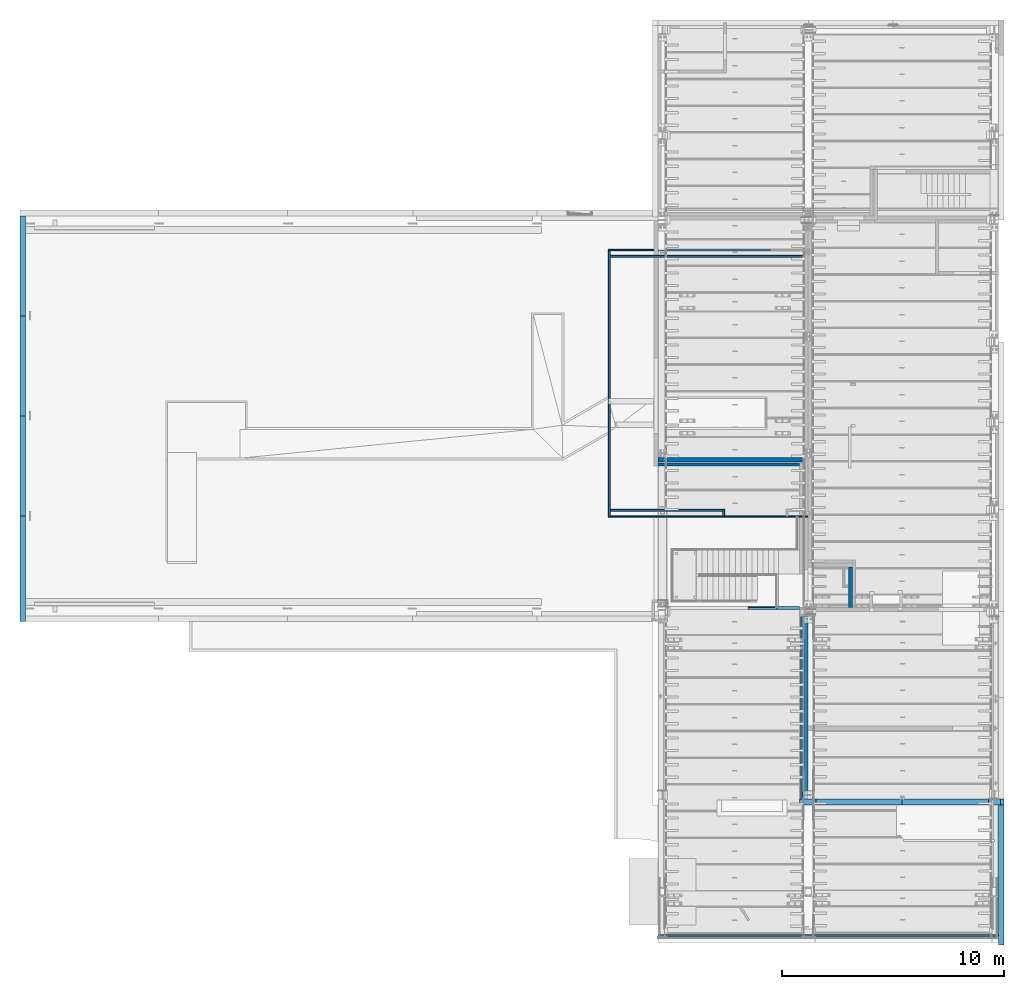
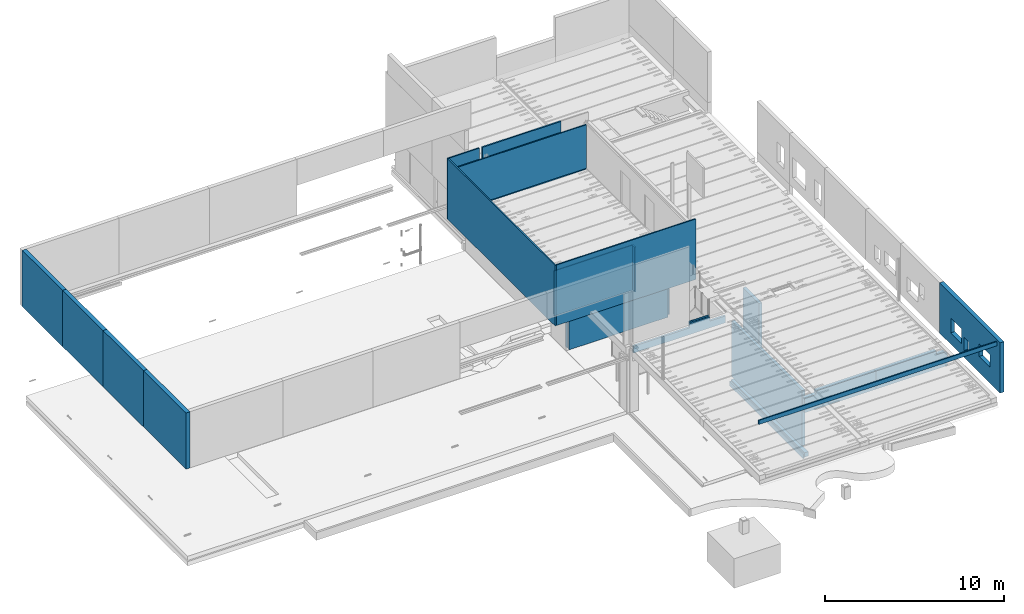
# One storey, part 68 of 230: 22 walls, 3 openings.
"""IFC4X3_ADD2 building model written with IfcOpenShell, lengths in millimetres."""

from ifc_helpers import new_model, si_unit, direction, frame, frame_2d, origin_with_axes, place, context, subcontext, project, spatial, polyline, rectangle, outline, extrude, clip, bounded_halfspace, material, layer, layer_set, type_object, element, save


model = new_model("IFC4X3_ADD2")

# Units and contexts
model_context = context("Model", 3, precision=1e-05, world=origin_with_axes(), true_north=direction((0.0, 1.0)))
body_context = subcontext(model_context, "Body", "Model", "MODEL_VIEW")
ifc_project = project(units=[si_unit("LENGTHUNIT", "METRE", prefix="MILLI"), si_unit("AREAUNIT", "SQUARE_METRE"), si_unit("VOLUMEUNIT", "CUBIC_METRE"), si_unit("PLANEANGLEUNIT", "RADIAN"), si_unit("TIMEUNIT", "SECOND"), si_unit("MASSUNIT", "GRAM")], contexts=[model_context])

# Site, building, storey
site_placement = place(None, origin_with_axes())
site = spatial("IfcSite", under=ifc_project, at=site_placement, Name="Site", CompositionType="ELEMENT")
building_placement = place(site_placement, origin_with_axes())
building = spatial("IfcBuilding", under=site, at=building_placement, Name="IFC Building Story")
storey_placement = place(building_placement, origin_with_axes())
storey = spatial("IfcBuildingStorey", under=building, at=storey_placement, Name="ETAGE 00 (0)", Elevation=0.0)

# Walls
ifc_material_1 = material(Name="BS_28_Ossature en béton armé - Eléments préfabriqués(panneau façade)")
ifc_layer_1 = layer(ifc_material_1, 90.0)
ifc_material_2 = material(Name="BS_21_Isolation des murs extérieurs")
ifc_layer_2 = layer(ifc_material_2, 100.0)
ifc_layer_3 = layer(ifc_material_1, 60.0)
ifc_layer_set_1 = layer_set([ifc_layer_1, ifc_layer_2, ifc_layer_3], Name="Mur de base:BS_21_WA_BTpréfab90-ISO100-BTlissépréfab60")
wall_type_1 = type_object("IfcWallType", Name="Mur de base:BS_21_WA_BTpréfab90-ISO100-BTlissépréfab60 250", PredefinedType="NOTDEFINED", material=ifc_layer_set_1)
wall_1_placement = place(storey_placement, origin_with_axes())
element("IfcWall", 1, at=wall_1_placement, inside=storey, type_object=wall_type_1, Name="Mur de base:BS_21_WA_BTpréfab90-ISO100-BTlissépréfab60", ObjectType="Mur de base:BS_21_WA_BTpréfab90-ISO100-BTlissépréfab60", context=body_context, shape_type="SweptSolid", body=[
    extrude(rectangle(XDim=4750.000000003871, YDim=250.0000000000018, at=frame_2d((0.0, 5.95523630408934e-12), x_axis=(0.0, 1.0))), frame((4641.18947818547, 2125.00000000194, 6166.0), z_axis=(0.0, 0.0, 1.0), x_axis=(1.0, 0.0, 0.0)), (0.0, 0.0, 1.0), 3824.0),
])
wall_2_placement = place(storey_placement, origin_with_axes())
element("IfcWall", 2, at=wall_2_placement, inside=storey, type_object=wall_type_1, Name="Mur de base:BS_21_WA_BTpréfab90-ISO100-BTlissépréfab60", ObjectType="Mur de base:BS_21_WA_BTpréfab90-ISO100-BTlissépréfab60", context=body_context, shape_type="SweptSolid", body=[
    extrude(rectangle(XDim=4500.000000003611, YDim=250.0000000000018, at=frame_2d((0.0, 5.95523630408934e-12), x_axis=(0.0, 1.0))), frame((4641.18947818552, 15750.0000000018, 6166.0), z_axis=(0.0, 0.0, 1.0), x_axis=(1.0, 0.0, 0.0)), (0.0, 0.0, 1.0), 3824.0),
])
wall_3_placement = place(storey_placement, origin_with_axes())
element("IfcWall", 3, at=wall_3_placement, inside=storey, type_object=wall_type_1, Name="Mur de base:BS_21_WA_BTpréfab90-ISO100-BTlissépréfab60", ObjectType="Mur de base:BS_21_WA_BTpréfab90-ISO100-BTlissépréfab60", context=body_context, shape_type="SweptSolid", body=[
    extrude(rectangle(XDim=4500.000000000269, YDim=250.0000000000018, at=frame_2d((0.0, 5.95523630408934e-12), x_axis=(0.0, 1.0))), frame((4641.1894781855, 11250.00000000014, 6166.0), z_axis=(0.0, 0.0, 1.0), x_axis=(1.0, 0.0, 0.0)), (0.0, 0.0, 1.0), 3824.0),
])
wall_4_placement = place(storey_placement, origin_with_axes())
element("IfcWall", 4, at=wall_4_placement, inside=storey, type_object=wall_type_1, Name="Mur de base:BS_21_WA_BTpréfab90-ISO100-BTlissépréfab60", ObjectType="Mur de base:BS_21_WA_BTpréfab90-ISO100-BTlissépréfab60", context=body_context, shape_type="SweptSolid", body=[
    extrude(rectangle(XDim=4499.999999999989, YDim=250.0, at=frame_2d((0.0, 5.95523630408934e-12), x_axis=(0.0, 1.0))), frame((4641.18947818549, 6750.0, 6166.0), z_axis=(0.0, 0.0, 1.0), x_axis=(1.0, 0.0, 0.0)), (0.0, 0.0, 1.0), 3824.0),
])
ifc_material_3 = material(Name="BS_28_Ossature en béton armé - Eléments coulé sur place")
wall_type_2 = type_object("IfcWallType", Name="Mur de base:BS_28_WA_BTcoulé250", PredefinedType="NOTDEFINED", material=ifc_material_3)
wall_5_placement = place(storey_placement, origin_with_axes())
element("IfcWall", 5, at=wall_5_placement, inside=storey, type_object=wall_type_2, Name="Mur de base:BS_28_WA_BTcoulé250", ObjectType="Mur de base:BS_28_WA_BTcoulé250", context=body_context, shape_type="SweptSolid", body=[
    extrude(rectangle(XDim=8209.70991333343, YDim=249.9999999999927, at=frame_2d((0.0, 5.95523630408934e-12), x_axis=(0.0, 1.0))), frame((39826.6894781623, -4124.854956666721, -500.0), z_axis=(0.0, 0.0, 1.0), x_axis=(1.0, 0.0, 0.0)), (0.0, 0.0, 1.0), 300.0),
])
ifc_material_4 = material(Name="BS_13_Isolation sur sols XPS")
wall_type_3 = type_object("IfcWallType", Name="Mur de base:BS_13_WA_XPS80", PredefinedType="NOTDEFINED", material=ifc_material_4)
wall_6_placement = place(storey_placement, origin_with_axes())
element("IfcWall", 6, at=wall_6_placement, inside=storey, type_object=wall_type_3, Name="Mur de base:BS_13_WA_XPS80", ObjectType="Mur de base:BS_13_WA_XPS80", context=body_context, shape_type="SweptSolid", body=[
    extrude(rectangle(XDim=8209.70991333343, YDim=80.0, at=frame_2d((0.0, 5.95523630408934e-12), x_axis=(0.0, 1.0))), frame((39661.6894781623, -4124.854956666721, -580.0), z_axis=(0.0, 0.0, 1.0), x_axis=(1.0, 0.0, 0.0)), (0.0, 0.0, 1.0), 300.0),
])
ifc_material_5 = material(Name="BS_22_Maçonnerie intérieure - Type4 -  en béton")
wall_type_4 = type_object("IfcWallType", Name="Mur de base:BS_22_WA_BBTlourd190", PredefinedType="NOTDEFINED", material=ifc_material_5)
wall_7_placement = place(storey_placement, origin_with_axes())
element("IfcWall", 7, at=wall_7_placement, inside=storey, type_object=wall_type_4, Name="Mur de base:BS_22_WA_BBTlourd190", ObjectType="Mur de base:BS_22_WA_BBTlourd190", context=body_context, shape_type="SweptSolid", body=[
    extrude(rectangle(XDim=6559.999999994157, YDim=190.0, at=frame_2d((0.0, 5.95523630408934e-12), x_axis=(1.0, 0.0))), frame((36481.68947816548, 7033.83965321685, 0.0), z_axis=(0.0, 0.0, 1.0), x_axis=(1.0, 0.0, 0.0)), (0.0, 0.0, 1.0), 4000.0),
])
wall_8_placement = place(storey_placement, origin_with_axes())
element("IfcWall", 8, at=wall_8_placement, inside=storey, type_object=wall_type_4, Name="Mur de base:BS_22_WA_BBTlourd190", ObjectType="Mur de base:BS_22_WA_BBTlourd190", context=body_context, shape_type="SweptSolid", body=[
    extrude(rectangle(XDim=1799.99999997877, YDim=189.9999999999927, at=frame_2d((0.0, 5.95523630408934e-12), x_axis=(0.0, 1.0))), frame((41846.6894781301, 1300.000000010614, 0.0), z_axis=(0.0, 0.0, 1.0), x_axis=(1.0, 0.0, 0.0)), (0.0, 0.0, 1.0), 4000.0),
])
wall_9_placement = place(storey_placement, origin_with_axes())
element("IfcWall", 9, at=wall_9_placement, inside=storey, type_object=wall_type_4, Name="Mur de base:BS_22_WA_BBTlourd190", ObjectType="Mur de base:BS_22_WA_BBTlourd190", context=body_context, shape_type="SweptSolid", body=[
    extrude(rectangle(XDim=7830.0000867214, YDim=189.9999999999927, at=frame_2d((0.0, 5.95523630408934e-12), x_axis=(0.0, 1.0))), frame((39856.6894781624, -3915.0000433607, 0.0), z_axis=(0.0, 0.0, 1.0), x_axis=(1.0, 0.0, 0.0)), (0.0, 0.0, 1.0), 3770.0),
])
ifc_material_6 = material(Name="BS_42_Revêtement mural en plaques - type A (gyproc)")
ifc_layer_4 = layer(ifc_material_6, 12.5)
ifc_material_7 = material(Name="BS_42_Panneau OSB")
ifc_layer_5 = layer(ifc_material_7, 18.0)
ifc_material_8 = material(Name="BS_42_ContreCloison-Laine minérale")
ifc_layer_6 = layer(ifc_material_8, 75.0)
ifc_layer_7 = layer(ifc_material_7, 18.0)
ifc_layer_8 = layer(ifc_material_6, 12.5)
ifc_layer_set_2 = layer_set([ifc_layer_4, ifc_layer_5, ifc_layer_6, ifc_layer_7, ifc_layer_8], Name="Mur de base:BS_22_WA_C1")
wall_type_5 = type_object("IfcWallType", Name="Mur de base:BS_22_WA_C1 136", PredefinedType="NOTDEFINED", material=ifc_layer_set_2)
wall_10_placement = place(storey_placement, origin_with_axes())
element("IfcWall", 10, at=wall_10_placement, inside=storey, type_object=wall_type_5, Name="Mur de base:BS_22_WA_C1", ObjectType="Mur de base:BS_22_WA_C1", context=body_context, shape_type="Clipping", body=[
    clip(clip(clip(extrude(outline(polyline([(2962.000611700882, -68.0), (-2962.000611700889, -68.0), (-2962.000611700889, 68.0), (2962.000611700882, 68.0), (2962.000611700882, -68.0)])), frame((36587.18886646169, 362.500000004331, 3535.0), z_axis=(0.0, 0.0, 1.0), x_axis=(1.0, 0.0, 0.0)), (0.0, 0.0, 1.0), 835.0), bounded_halfspace(frame((0.0, 0.0, 4000.0), z_axis=(0.0, 0.0, 1.0), x_axis=(1.0, 0.0, 0.0)), False, frame((36587.18886646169, 362.500000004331, 3535.0), z_axis=(0.0, 0.0, 1.0), x_axis=(1.0, 0.0, 0.0)), polyline([(-2962.000611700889, 68.0), (-2962.000611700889, -68.0), (647.6899899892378, -67.99999999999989), (647.6899899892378, 68.0), (-2962.000611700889, 68.0)]))), bounded_halfspace(frame((0.0, 0.0, 4000.0), z_axis=(0.0, 0.0, 1.0), x_axis=(1.0, 0.0, 0.0)), False, frame((36587.18886646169, 362.500000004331, 3535.0), z_axis=(0.0, 0.0, 1.0), x_axis=(1.0, 0.0, 0.0)), polyline([(2962.000611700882, -68.0), (2962.000611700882, 68.0), (1954.929543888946, 68.0), (1954.929543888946, -68.0), (2962.000611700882, -68.0)]))), bounded_halfspace(frame((0.0, 0.0, 4269.999999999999), z_axis=(0.0, 0.0, 1.0), x_axis=(1.0, 0.0, 0.0)), False, frame((36587.18886646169, 362.500000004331, 3535.0), z_axis=(0.0, 0.0, 1.0), x_axis=(1.0, 0.0, 0.0)), polyline([(647.6899899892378, -67.99999999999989), (1954.929543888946, -68.0), (1954.929543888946, 37.49999999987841), (647.6899899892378, 37.49999999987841), (647.6899899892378, -67.99999999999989)]))),
])
ifc_layer_9 = layer(ifc_material_8, 62.5)
ifc_layer_10 = layer(ifc_material_8, 62.5)
ifc_layer_11 = layer(ifc_material_7, 18.0)
ifc_layer_12 = layer(ifc_material_6, 12.5)
ifc_layer_set_3 = layer_set([ifc_layer_9, ifc_layer_10, ifc_layer_11, ifc_layer_12], Name="Mur de base:BS_22_WA_CC4")
wall_type_6 = type_object("IfcWallType", Name="Mur de base:BS_22_WA_CC4 155.5", PredefinedType="NOTDEFINED", material=ifc_layer_set_3)
wall_11_placement = place(storey_placement, origin_with_axes())
element("IfcWall", 11, at=wall_11_placement, inside=storey, type_object=wall_type_6, Name="Mur de base:BS_22_WA_CC4", ObjectType="Mur de base:BS_22_WA_CC4", context=body_context, shape_type="SweptSolid", body=[
    extrude(rectangle(XDim=6347.499999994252, YDim=155.4999999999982, at=frame_2d((0.0, 5.95523630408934e-12), x_axis=(1.0, 0.0))), frame((36375.43947816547, 6817.7485510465, 0.0), z_axis=(0.0, 0.0, 1.0), x_axis=(1.0, 0.0, 0.0)), (0.0, 0.0, 1.0), 4000.0),
])
ifc_layer_13 = layer(ifc_material_8, 25.0)
ifc_layer_14 = layer(ifc_material_8, 25.0)
ifc_layer_15 = layer(ifc_material_7, 18.0)
ifc_material_9 = material(Name="BS_42_Revêtement mural en plaques - type Rf (gyproc)")
ifc_layer_16 = layer(ifc_material_9, 12.5)
ifc_layer_17 = layer(ifc_material_9, 12.5)
ifc_layer_set_4 = layer_set([ifc_layer_13, ifc_layer_14, ifc_layer_15, ifc_layer_16, ifc_layer_17], Name="Mur de base:BS_22_WA_CC5")
wall_type_7 = type_object("IfcWallType", Name="Mur de base:BS_22_WA_CC5 93", PredefinedType="NOTDEFINED", material=ifc_layer_set_4)
wall_12_placement = place(storey_placement, origin_with_axes())
element("IfcWall", 12, at=wall_12_placement, inside=storey, type_object=wall_type_7, Name="Mur de base:BS_22_WA_CC5", ObjectType="Mur de base:BS_22_WA_CC5", context=body_context, shape_type="SweptSolid", body=[
    extrude(rectangle(XDim=5059.999999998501, YDim=93.0, at=frame_2d((0.0, 5.95523630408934e-12), x_axis=(1.0, 0.0))), frame((35731.68947816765, 16455.0000000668, 4270.0), z_axis=(0.0, 0.0, 1.0), x_axis=(1.0, 0.0, 0.0)), (0.0, 0.0, 1.0), 3640.0),
])
ifc_material_10 = material(Name="BS_22_Cloison légère fixe (bois)")
wall_type_8 = type_object("IfcWallType", Name="Mur de base:BS_42_WA_Cloison bois_80", PredefinedType="NOTDEFINED", material=ifc_material_10)
wall_13_placement = place(storey_placement, origin_with_axes())
element("IfcWall", 13, at=wall_13_placement, inside=storey, type_object=wall_type_8, Name="Mur de base:BS_42_WA_Cloison bois_80", ObjectType="Mur de base:BS_42_WA_Cloison bois_80", context=body_context, shape_type="SweptSolid", body=[
    extrude(rectangle(XDim=15299.99999998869, YDim=79.99999999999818, at=frame_2d((0.0, 5.95523630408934e-12), x_axis=(1.0, 0.0))), frame((40851.68947816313, -14366.8898346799, 7742.20609623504), z_axis=(0.0, 0.0, 1.0), x_axis=(1.0, 0.0, 0.0)), (0.0, 0.0, 1.0), 282.033867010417),
])
ifc_layer_18 = layer(ifc_material_8, 25.0)
ifc_layer_19 = layer(ifc_material_8, 25.0)
ifc_layer_20 = layer(ifc_material_7, 18.0)
ifc_layer_21 = layer(ifc_material_6, 12.5)
ifc_layer_set_5 = layer_set([ifc_layer_18, ifc_layer_19, ifc_layer_20, ifc_layer_21], Name="Mur de base:BS_22_WA_CC2")
wall_type_9 = type_object("IfcWallType", Name="Mur de base:BS_22_WA_CC2 80.5", PredefinedType="NOTDEFINED", material=ifc_layer_set_5)
wall_14_placement = place(storey_placement, origin_with_axes())
element("IfcWall", 14, at=wall_14_placement, inside=storey, type_object=wall_type_9, Name="Mur de base:BS_22_WA_CC2", ObjectType="Mur de base:BS_22_WA_CC2", context=body_context, shape_type="SweptSolid", body=[
    extrude(rectangle(XDim=11987.4999999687, YDim=80.49999999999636, at=frame_2d((0.0, 5.95523630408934e-12), x_axis=(0.0, 1.0))), frame((31006.93947812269, 10428.74999997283, 3800.0), z_axis=(0.0, 0.0, 1.0), x_axis=(1.0, 0.0, 0.0)), (0.0, 0.0, 1.0), 4120.0),
])
wall_15_placement = place(storey_placement, origin_with_axes())
element("IfcWall", 15, at=wall_15_placement, inside=storey, type_object=wall_type_9, Name="Mur de base:BS_22_WA_CC2", ObjectType="Mur de base:BS_22_WA_CC2", context=body_context, shape_type="Clipping", body=[
    clip(extrude(outline(polyline([(4347.25, 40.24999999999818), (4347.25, -40.25), (-4347.25, -40.25), (-4347.25, 40.24999999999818), (4347.25, 40.24999999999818)])), frame((35394.4394781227, 16179.0000000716, 4270.0), z_axis=(0.0, 0.0, 1.0), x_axis=(1.0, 0.0, 0.0)), (0.0, 0.0, 1.0), 3060.0), bounded_halfspace(frame((0.0, 0.0, 4370.0), z_axis=(0.0, 0.0, -1.0), x_axis=(-1.0, 0.0, 0.0)), False, frame((35394.4394781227, 16179.0000000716, 4270.0), z_axis=(0.0, 0.0, 1.0), x_axis=(1.0, 0.0, 0.0)), polyline([(4347.25, -8.500000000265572), (4347.25, -40.25), (-4347.25, -40.25), (-4347.25, -8.500000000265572), (4347.25, -8.500000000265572)]))),
])
wall_16_placement = place(storey_placement, origin_with_axes())
element("IfcWall", 16, at=wall_16_placement, inside=storey, type_object=wall_type_9, Name="Mur de base:BS_22_WA_CC2", ObjectType="Mur de base:BS_22_WA_CC2", context=body_context, shape_type="SweptSolid", body=[
    extrude(rectangle(XDim=2045.00000004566, YDim=80.5, at=frame_2d((0.0, 5.95523630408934e-12), x_axis=(1.0, 0.0))), frame((31989.18947814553, 16462.7499999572, 3800.0), z_axis=(0.0, 0.0, 1.0), x_axis=(1.0, 0.0, 0.0)), (0.0, 0.0, 1.0), 4120.0),
])
wall_17_placement = place(storey_placement, origin_with_axes())
element("IfcWall", 17, at=wall_17_placement, inside=storey, type_object=wall_type_9, Name="Mur de base:BS_22_WA_CC2", ObjectType="Mur de base:BS_22_WA_CC2", context=body_context, shape_type="SweptSolid", body=[
    extrude(rectangle(XDim=8971.999999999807, YDim=80.5, at=frame_2d((0.0, 5.95523630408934e-12), x_axis=(1.0, 0.0))), frame((35533.18947812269, 4475.249999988, 3800.0), z_axis=(0.0, 0.0, 1.0), x_axis=(1.0, 0.0, 0.0)), (0.0, 0.0, 1.0), 4120.0),
])
wall_18_placement = place(storey_placement, origin_with_axes())
element("IfcWall", 18, at=wall_18_placement, inside=storey, type_object=wall_type_9, Name="Mur de base:BS_22_WA_CC2", ObjectType="Mur de base:BS_22_WA_CC2", context=body_context, shape_type="SweptSolid", body=[
    extrude(rectangle(XDim=309.2500000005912, YDim=80.5, at=frame_2d((0.0, 5.95523630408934e-12), x_axis=(0.0, 1.0))), frame((36154.439478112, 4649.624999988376, 4270.0), z_axis=(0.0, 0.0, 1.0), x_axis=(1.0, 0.0, 0.0)), (0.0, 0.0, 1.0), 3060.0),
])
wall_19_placement = place(storey_placement, origin_with_axes())
element("IfcWall", 19, at=wall_19_placement, inside=storey, type_object=wall_type_9, Name="Mur de base:BS_22_WA_CC2", ObjectType="Mur de base:BS_22_WA_CC2", context=body_context, shape_type="Clipping", body=[
    clip(extrude(outline(polyline([(-2533.499999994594, -40.25), (-2533.499999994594, 40.25), (2533.499999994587, 40.25), (2533.499999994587, -40.25), (-2533.499999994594, -40.25)])), frame((33580.68947811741, 4763.99999998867, 4270.0), z_axis=(0.0, 0.0, 1.0), x_axis=(1.0, 0.0, 0.0)), (0.0, 0.0, 1.0), 3060.0), bounded_halfspace(frame((0.0, 0.0, 4370.0), z_axis=(0.0, 0.0, -1.0), x_axis=(-1.0, 0.0, 0.0)), False, frame((33580.68947811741, 4763.99999998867, 4270.0), z_axis=(0.0, 0.0, 1.0), x_axis=(1.0, 0.0, 0.0)), polyline([(-2533.499999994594, 6.000000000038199), (-2533.499999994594, 40.25), (2533.499999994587, 40.25), (2533.499999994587, 6.000000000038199), (-2533.499999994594, 6.000000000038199)]))),
])
ifc_layer_22 = layer(ifc_material_1, 90.0)
ifc_layer_23 = layer(ifc_material_2, 100.0)
ifc_layer_24 = layer(ifc_material_1, 60.0)
ifc_layer_set_6 = layer_set([ifc_layer_22, ifc_layer_23, ifc_layer_24], Name="Mur de base:BS_21_WA_BTpréfab90-ISO100-BTlissépréfab60 (sous porte-à-faux)")
wall_type_10 = type_object("IfcWallType", Name="Mur de base:BS_21_WA_BTpréfab90-ISO100-BTlissépréfab60 (sous porte-à-faux) 250", PredefinedType="NOTDEFINED", material=ifc_layer_set_6)
wall_20_placement = place(storey_placement, origin_with_axes())
element("IfcWall", 20, at=wall_20_placement, inside=storey, type_object=wall_type_10, Name="Mur de base:BS_21_WA_BTpréfab90-ISO100-BTlissépréfab60 (sous porte-à-faux)", ObjectType="Mur de base:BS_21_WA_BTpréfab90-ISO100-BTlissépréfab60 (sous porte-à-faux)", context=body_context, shape_type="Clipping", body=[
    clip(extrude(outline(polyline([(-2299.999999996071, 125.0), (2299.999999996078, 125.0), (2299.999999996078, -125.0), (-2299.999999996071, -125.0), (-2299.999999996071, 125.0)])), frame((41861.68947816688, -8355.00008672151, 2720.0), z_axis=(0.0, 0.0, 1.0), x_axis=(1.0, 0.0, 0.0)), (0.0, 0.0, 1.0), 1230.0), bounded_halfspace(frame((0.0, 0.0, 3710.0), z_axis=(0.0, 0.0, 1.0), x_axis=(1.0, 0.0, 0.0)), False, frame((41861.68947816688, -8355.00008672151, 2720.0), z_axis=(0.0, 0.0, 1.0), x_axis=(1.0, 0.0, 0.0)), polyline([(-1559.999999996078, 125.0), (-2299.999999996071, 125.0), (-2299.999999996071, -125.0), (-1559.999999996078, -125.0), (-1559.999999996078, 125.0)]))),
])
wall_21_placement = place(storey_placement, origin_with_axes())
element("IfcWall", 21, at=wall_21_placement, inside=storey, type_object=wall_type_10, Name="Mur de base:BS_21_WA_BTpréfab90-ISO100-BTlissépréfab60 (sous porte-à-faux)", ObjectType="Mur de base:BS_21_WA_BTpréfab90-ISO100-BTlissépréfab60 (sous porte-à-faux)", context=body_context, shape_type="Clipping", body=[
    clip(clip(extrude(outline(polyline([(-2294.99999999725, 125.0), (2294.99999999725, 125.0), (2294.99999999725, -125.0), (-2294.99999999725, -125.0), (-2294.99999999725, 125.0)])), frame((46456.68947816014, -8355.00008672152, 2720.0), z_axis=(0.0, 0.0, 1.0), x_axis=(1.0, 0.0, 0.0)), (0.0, 0.0, 1.0), 1230.0), bounded_halfspace(frame((0.0, 0.0, 3710.0), z_axis=(0.0, 0.0, 1.0), x_axis=(1.0, 0.0, 0.0)), False, frame((46456.68947816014, -8355.00008672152, 2720.0), z_axis=(0.0, 0.0, 1.0), x_axis=(1.0, 0.0, 0.0)), polyline([(2135.00000000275, 125.0), (1595.00000000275, 125.0), (1595.00000000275, -125.0), (2135.00000000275, -125.0), (2135.00000000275, 125.0)]))), bounded_halfspace(frame((0.0, 0.0, 3544.999999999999), z_axis=(0.0, 0.0, 1.0), x_axis=(1.0, 0.0, 0.0)), False, frame((46456.68947816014, -8355.00008672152, 2720.0), z_axis=(0.0, 0.0, 1.0), x_axis=(1.0, 0.0, 0.0)), polyline([(2294.99999999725, 125.0), (2135.00000000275, 125.0), (2135.00000000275, -125.0), (2294.99999999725, -125.0), (2294.99999999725, 125.0)]))),
])

# Wall, openings
ifc_layer_25 = layer(ifc_material_1, 90.0)
ifc_layer_26 = layer(ifc_material_2, 100.0)
ifc_layer_27 = layer(ifc_material_1, 60.0)
ifc_layer_set_7 = layer_set([ifc_layer_25, ifc_layer_26, ifc_layer_27], Name="Mur de base:BS_21_WA_BTpréfab90-ISO100-BTlissépréfab60 (porte-à-faux)")
wall_type_11 = type_object("IfcWallType", Name="Mur de base:BS_21_WA_BTpréfab90-ISO100-BTlissépréfab60 (porte-à-faux) 250", PredefinedType="NOTDEFINED", material=ifc_layer_set_7)
wall_22_placement = place(storey_placement, origin_with_axes())
wall_22 = element("IfcWall", 22, at=wall_22_placement, inside=storey, type_object=wall_type_11, Name="Mur de base:BS_21_WA_BTpréfab90-ISO100-BTlissépréfab60 (porte-à-faux)", ObjectType="Mur de base:BS_21_WA_BTpréfab90-ISO100-BTlissépréfab60 (porte-à-faux)", context=body_context, shape_type="SweptSolid", body=[
    extrude(rectangle(XDim=6749.999913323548, YDim=250.0000000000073, at=frame_2d((0.0, 5.95523630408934e-12), x_axis=(0.0, 1.0))), frame((48626.68947815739, -11405.00004338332, 4745.0), z_axis=(0.0, 0.0, 1.0), x_axis=(1.0, 0.0, 0.0)), (0.0, 0.0, 1.0), 3430.0),
])
opening_1_placement = place(wall_22_placement, frame((48501.68947815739, -9885.000000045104, 6020.0), z_axis=(1.0, 0.0, 0.0), x_axis=(0.0, -1.0, 0.0)))
element("IfcOpeningElement", 23, at=opening_1_placement, cuts=wall_22, ObjectType="Opening", context=body_context, shape_type="SweptSolid", body=[
    extrude(outline(polyline([(600.0, -225.0), (-599.9999999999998, -225.0), (-599.9999999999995, 224.9999999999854), (600.0, 224.9999999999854), (600.0, -225.0)])), frame((0.0, -500.0, 24.99999999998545), z_axis=(0.0, 1.0, 0.0), x_axis=(1.0, 0.0, 0.0)), (0.0, 0.0, 1.0), 1000.0),
])
opening_2_placement = place(wall_22_placement, frame((48501.68947815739, -11020.0, 5669.999999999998), z_axis=(1.0, 0.0, 0.0), x_axis=(0.0, -1.0, 0.0)))
element("IfcOpeningElement", 24, at=opening_2_placement, cuts=wall_22, ObjectType="Opening", context=body_context, shape_type="SweptSolid", body=[
    extrude(outline(polyline([(250.0000000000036, -225.0), (-250.0, -225.0), (-250.0, 224.9999999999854), (250.0000000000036, 224.9999999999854), (250.0000000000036, -225.0)])), frame((-1.818989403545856e-12, -450.0000000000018, 24.99999999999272), z_axis=(0.0, 1.0, 0.0), x_axis=(1.0, 0.0, 0.0)), (0.0, 0.0, 1.0), 900.0000000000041),
])
opening_3_placement = place(wall_22_placement, frame((48501.68947815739, -13030.0, 6244.999999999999), z_axis=(1.0, 0.0, 0.0), x_axis=(0.0, -1.0, 0.0)))
element("IfcOpeningElement", 25, at=opening_3_placement, cuts=wall_22, ObjectType="Opening", context=body_context, shape_type="SweptSolid", body=[
    extrude(outline(polyline([(600.0, -225.0), (-599.9999999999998, -225.0), (-599.9999999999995, 224.9999999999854), (600.0, 224.9999999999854), (600.0, -225.0)])), frame((0.0, -424.9999999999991, 24.99999999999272), z_axis=(0.0, 1.0, 0.0), x_axis=(1.0, 0.0, 0.0)), (0.0, 0.0, 1.0), 849.9999999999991),
])

save(model, "model.ifc")
